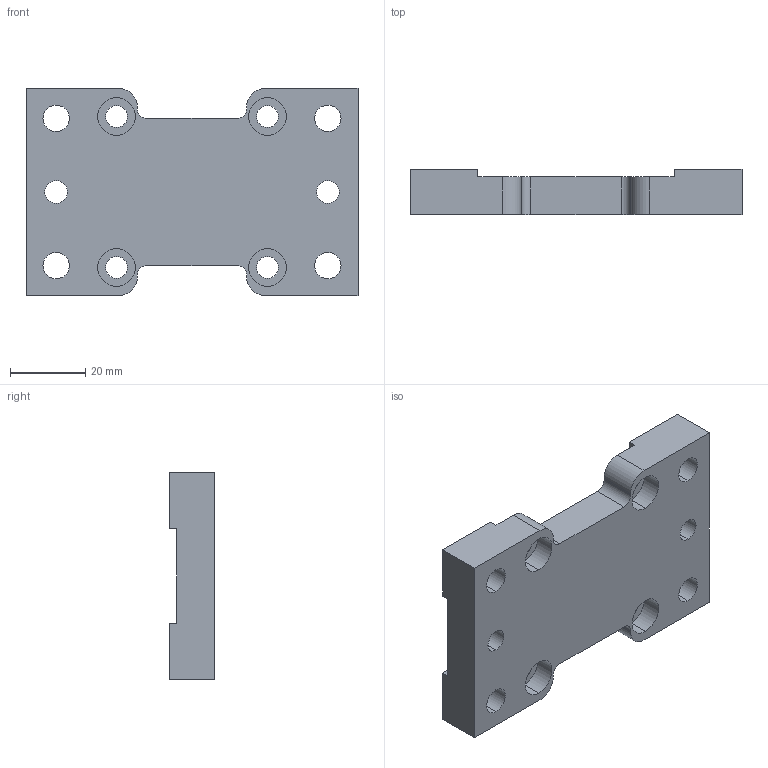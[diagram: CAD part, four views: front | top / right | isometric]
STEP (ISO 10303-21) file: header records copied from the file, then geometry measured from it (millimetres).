
FILE_DESCRIPTION (( 'STEP AP203' ), '1' );
FILE_NAME ('T40S.step', '2017-02-15T12:26:15', ( '' ), ( '' ), 'SwSTEP 2.0', 'SolidWorks 2012', '' );
FILE_SCHEMA (( 'CONFIG_CONTROL_DESIGN' ));
Length unit declared in the file: millimetre
Products named in the file (1): T40S
Bounding box: 88 x 12 x 55 mm (x, y, z)
Volume: 39712.3 mm3; surface area: 14435.3 mm2
Topology: 1 solids, 1 shells, 78 faces, 204 edges, 136 vertices
Faces by surface type: cylinder 44, plane 34
Entity records: 2553 total; most frequent: DIRECTION 450, CARTESIAN_POINT 419, ORIENTED_EDGE 408, EDGE_CURVE 204, AXIS2_PLACEMENT_3D 167, VERTEX_POINT 136, LINE 116, VECTOR 116
